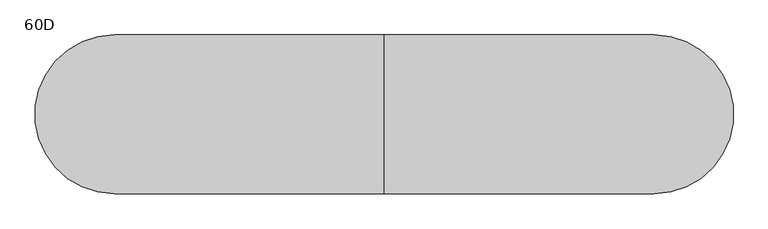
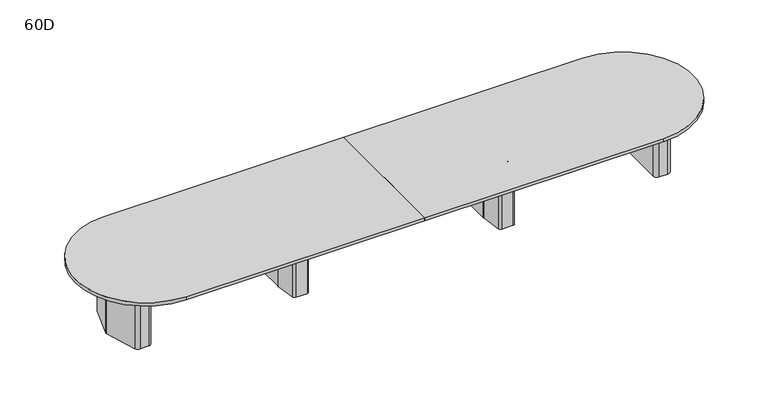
"""IFC4 building model written with IfcOpenShell, lengths in millimetres: furniture geometry, Coalesse_AM_Table_Conference_ETable2_Racetrack_22ft_FourBase : 60D."""

from ifc_helpers import new_model, si_unit, point, frame, frame_2d, origin, origin_with_axes, place, context, project, spatial, polyline, circle_curve, trimmed, segment, composite_curve, outline, extrude, source, transform, mapped, element, save
from ifc_brep_helpers import plane_surface, cylinder_surface, revolved_surface, advanced_brep


def furniture_60d_2d9ece58(model_context):
    return source(origin(), model_context, "Body", "SolidModel", [
        advanced_brep(
        [(1178.6357815, 381.0, 698.5), (1056.5642185, 381.0, 698.5), (1031.4114006, 359.1349332, 698.5), (1000.3721821, 138.2753661, 698.5), (1000.125, 134.740433, 698.5), (1000.125, -134.7404196, 698.5), (1000.3721537, -138.2751502, 698.5), (1031.4095605, -359.1347306, 698.5), (1056.5624068, -381.0, 698.5), (1178.6375932, -381.0, 698.5), (1203.7904395, -359.1347306, 698.5), (1234.8278463, -138.2751502, 698.5), (1235.075, -134.7404196, 698.5), (1235.075, 134.740433, 698.5), (1234.8278179, 138.2753661, 698.5), (1203.7885994, 359.1349332, 698.5), (1143.0, 314.325, 698.5), (1168.4, 288.925, 698.5), (1168.4, -288.925, 698.5), (1143.0, -314.325, 698.5), (1092.2, -314.325, 698.5), (1066.8, -288.925, 698.5), (1066.8, 288.925, 698.5), (1092.2, 314.325, 698.5), (1178.6357815, 381.0, 3.175), (1203.7885994, 359.1349332, 3.175), (1234.8278179, 138.2753661, 3.175), (1235.075, 134.740433, 3.175), (1235.075, -134.7404196, 3.175), (1234.8278463, -138.2751502, 3.175), (1203.7904395, -359.1347306, 3.175), (1178.6375932, -381.0, 3.175), (1056.5624068, -381.0, 3.175), (1031.4095605, -359.1347306, 3.175), (1000.3721537, -138.2751502, 3.175), (1000.125, -134.7404196, 3.175), (1000.125, 134.740433, 3.175), (1000.3721821, 138.2753661, 3.175), (1031.4114006, 359.1349332, 3.175), (1056.5642185, 381.0, 3.175), (1143.0, 327.025, 3.175), (1092.2, 327.025, 3.175), (1054.1, 288.925, 3.175), (1054.1, -288.925, 3.175), (1092.2, -327.025, 3.175), (1143.0, -327.025, 3.175), (1181.1, -288.925, 3.175), (1181.1, 288.925, 3.175), (1143.0, 314.325, 3.175), (1168.4, 288.925, 3.175), (1168.4, -288.925, 3.175), (1143.0, -314.325, 3.175), (1092.2, -314.325, 3.175), (1066.8, -288.925, 3.175), (1066.8, 288.925, 3.175), (1092.2, 314.325, 3.175), (1143.0, 327.025, 0.0), (1181.1, 288.925, 0.0), (1181.1, -288.925, 0.0), (1143.0, -327.025, 0.0), (1092.2, -327.025, 0.0), (1054.1, -288.925, 0.0), (1054.1, 288.925, 0.0), (1092.2, 327.025, 0.0)],
        [
            (0, 1),
            (1, 2, circle_curve(frame((1056.5642185, 355.6, 698.5), z_axis=(0.0, 0.0, 1.0), x_axis=(1.0, 0.0, 0.0)), 25.4)),
            (2, 3),
            (3, 4, circle_curve(frame((1025.525, 134.740433, 698.5), z_axis=(0.0, 0.0, 1.0), x_axis=(1.0, 0.0, 0.0)), 25.4)),
            (4, 5),
            (5, 6, circle_curve(frame((1025.525, -134.7404196, 698.5), z_axis=(0.0, 0.0, 1.0), x_axis=(1.0, 0.0, 0.0)), 25.4)),
            (6, 7),
            (7, 8, circle_curve(frame((1056.5624068, -355.6, 698.5), z_axis=(0.0, 0.0, 1.0), x_axis=(1.0, 0.0, 0.0)), 25.4)),
            (8, 9),
            (9, 10, circle_curve(frame((1178.6375932, -355.6, 698.5), z_axis=(0.0, 0.0, 1.0), x_axis=(1.0, 0.0, 0.0)), 25.4)),
            (10, 11),
            (11, 12, circle_curve(frame((1209.675, -134.7404196, 698.5), z_axis=(0.0, 0.0, 1.0), x_axis=(1.0, 0.0, 0.0)), 25.4)),
            (12, 13),
            (13, 14, circle_curve(frame((1209.675, 134.740433, 698.5), z_axis=(0.0, 0.0, 1.0), x_axis=(1.0, 0.0, 0.0)), 25.4)),
            (14, 15),
            (15, 0, circle_curve(frame((1178.6357815, 355.6, 698.5), z_axis=(0.0, 0.0, 1.0), x_axis=(1.0, 0.0, 0.0)), 25.4)),
            (16, 17, circle_curve(frame((1143.0, 288.925, 698.5), z_axis=(0.0, 0.0, -1.0), x_axis=(1.0, 0.0, 0.0)), 25.4)),
            (17, 18),
            (18, 19, circle_curve(frame((1143.0, -288.925, 698.5), z_axis=(0.0, 0.0, -1.0), x_axis=(1.0, 0.0, 0.0)), 25.4)),
            (19, 20),
            (20, 21, circle_curve(frame((1092.2, -288.925, 698.5), z_axis=(0.0, 0.0, -1.0), x_axis=(1.0, 0.0, 0.0)), 25.4)),
            (21, 22),
            (22, 23, circle_curve(frame((1092.2, 288.925, 698.5), z_axis=(0.0, 0.0, -1.0), x_axis=(1.0, 0.0, 0.0)), 25.4)),
            (23, 16),
            (24, 25, circle_curve(frame((1178.6357815, 355.6, 3.175), z_axis=(0.0, 0.0, -1.0), x_axis=(1.0, 0.0, 0.0)), 25.4)),
            (25, 26),
            (26, 27, circle_curve(frame((1209.675, 134.740433, 3.175), z_axis=(0.0, 0.0, -1.0), x_axis=(1.0, 0.0, 0.0)), 25.4)),
            (27, 28),
            (28, 29, circle_curve(frame((1209.675, -134.7404196, 3.175), z_axis=(0.0, 0.0, -1.0), x_axis=(1.0, 0.0, 0.0)), 25.4)),
            (29, 30),
            (30, 31, circle_curve(frame((1178.6375932, -355.6, 3.175), z_axis=(0.0, 0.0, -1.0), x_axis=(1.0, 0.0, 0.0)), 25.4)),
            (31, 32),
            (32, 33, circle_curve(frame((1056.5624068, -355.6, 3.175), z_axis=(0.0, 0.0, -1.0), x_axis=(1.0, 0.0, 0.0)), 25.4)),
            (33, 34),
            (34, 35, circle_curve(frame((1025.525, -134.7404196, 3.175), z_axis=(0.0, 0.0, -1.0), x_axis=(1.0, 0.0, 0.0)), 25.4)),
            (35, 36),
            (36, 37, circle_curve(frame((1025.525, 134.740433, 3.175), z_axis=(0.0, 0.0, -1.0), x_axis=(1.0, 0.0, 0.0)), 25.4)),
            (37, 38),
            (38, 39, circle_curve(frame((1056.5642185, 355.6, 3.175), z_axis=(0.0, 0.0, -1.0), x_axis=(1.0, 0.0, 0.0)), 25.4)),
            (39, 24),
            (40, 41),
            (41, 42, circle_curve(frame((1092.2, 288.925, 3.175), z_axis=(0.0, 0.0, 1.0), x_axis=(1.0, 0.0, 0.0)), 38.1)),
            (42, 43),
            (43, 44, circle_curve(frame((1092.2, -288.925, 3.175), z_axis=(0.0, 0.0, 1.0), x_axis=(1.0, 0.0, 0.0)), 38.1)),
            (44, 45),
            (45, 46, circle_curve(frame((1143.0, -288.925, 3.175), z_axis=(0.0, 0.0, 1.0), x_axis=(1.0, 0.0, 0.0)), 38.1)),
            (46, 47),
            (47, 40, circle_curve(frame((1143.0, 288.925, 3.175), z_axis=(0.0, 0.0, 1.0), x_axis=(1.0, 0.0, 0.0)), 38.1)),
            (0, 24),
            (39, 1),
            (38, 2),
            (37, 3),
            (36, 4),
            (35, 5),
            (34, 6),
            (33, 7),
            (32, 8),
            (31, 9),
            (30, 10),
            (29, 11),
            (28, 12),
            (27, 13),
            (26, 14),
            (25, 15),
            (16, 48),
            (48, 49, circle_curve(frame((1143.0, 288.925, 3.175), z_axis=(0.0, 0.0, -1.0), x_axis=(1.0, 0.0, 0.0)), 25.4)),
            (49, 17),
            (49, 50),
            (50, 18),
            (50, 51, circle_curve(frame((1143.0, -288.925, 3.175), z_axis=(0.0, 0.0, -1.0), x_axis=(1.0, 0.0, 0.0)), 25.4)),
            (51, 19),
            (51, 52),
            (52, 20),
            (52, 53, circle_curve(frame((1092.2, -288.925, 3.175), z_axis=(0.0, 0.0, -1.0), x_axis=(1.0, 0.0, 0.0)), 25.4)),
            (53, 21),
            (53, 54),
            (54, 22),
            (54, 55, circle_curve(frame((1092.2, 288.925, 3.175), z_axis=(0.0, 0.0, -1.0), x_axis=(1.0, 0.0, 0.0)), 25.4)),
            (55, 23),
            (55, 48),
            (56, 57, circle_curve(frame((1143.0, 288.925, 0.0), z_axis=(0.0, 0.0, -1.0), x_axis=(1.0, 0.0, 0.0)), 38.1)),
            (57, 58),
            (58, 59, circle_curve(frame((1143.0, -288.925, 0.0), z_axis=(0.0, 0.0, -1.0), x_axis=(1.0, 0.0, 0.0)), 38.1)),
            (59, 60),
            (60, 61, circle_curve(frame((1092.2, -288.925, 0.0), z_axis=(0.0, 0.0, -1.0), x_axis=(1.0, 0.0, 0.0)), 38.1)),
            (61, 62),
            (62, 63, circle_curve(frame((1092.2, 288.925, 0.0), z_axis=(0.0, 0.0, -1.0), x_axis=(1.0, 0.0, 0.0)), 38.1)),
            (63, 56),
            (63, 41),
            (40, 56),
            (62, 42),
            (61, 43),
            (60, 44),
            (59, 45),
            (58, 46),
            (57, 47),
        ],
        [
            plane_surface(frame((-406.4, 381.0, 698.5), z_axis=(0.0, 0.0, 1.0), x_axis=(-1.0, 0.0, 0.0))),
            plane_surface(frame((-406.4, 381.0, 3.175), z_axis=(0.0, 0.0, -1.0), x_axis=(1.0, 0.0, 0.0))),
            plane_surface(frame((1178.6357815, 381.0, 698.5), z_axis=(0.0, 1.0, 0.0), x_axis=(0.0, 0.0, -1.0))),
            cylinder_surface(frame((1056.5642185, 355.6, 3.175), z_axis=(0.0, 0.0, 1.0), x_axis=(1.0, 0.0, 0.0)), 25.4),
            plane_surface(frame((1031.4114006, 359.1349332, 698.5), z_axis=(-0.9902684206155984, 0.13917059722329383, 0.0), x_axis=(0.0, 0.0, -1.0))),
            cylinder_surface(frame((1025.525, 134.740433, 3.175), z_axis=(0.0, 0.0, 1.0), x_axis=(1.0, 0.0, 0.0)), 25.4),
            plane_surface(frame((1000.125, 134.740433, 698.5), z_axis=(-1.0, 0.0, 0.0), x_axis=(0.0, 0.0, -1.0))),
            cylinder_surface(frame((1025.525, -134.7404196, 3.175), z_axis=(0.0, 0.0, 1.0), x_axis=(1.0, 0.0, 0.0)), 25.4),
            plane_surface(frame((1000.3721537, -138.2751502, 698.5), z_axis=(-0.9902695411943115, -0.1391626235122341, 0.0), x_axis=(0.0, 0.0, -1.0))),
            cylinder_surface(frame((1056.5624068, -355.6, 3.175), z_axis=(0.0, 0.0, 1.0), x_axis=(1.0, 0.0, 0.0)), 25.4),
            plane_surface(frame((1056.5624068, -381.0, 698.5), z_axis=(0.0, -1.0, 0.0), x_axis=(0.0, 0.0, -1.0))),
            cylinder_surface(frame((1178.6375932, -355.6, 3.175), z_axis=(0.0, 0.0, 1.0), x_axis=(1.0, 0.0, 0.0)), 25.4),
            plane_surface(frame((1203.7904395, -359.1347306, 698.5), z_axis=(0.9902695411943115, -0.1391626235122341, 0.0), x_axis=(0.0, 0.0, -1.0))),
            cylinder_surface(frame((1209.675, -134.7404196, 3.175), z_axis=(0.0, 0.0, 1.0), x_axis=(1.0, 0.0, 0.0)), 25.4),
            plane_surface(frame((1235.075, -134.7404196, 698.5), z_axis=(1.0, 0.0, 0.0), x_axis=(0.0, 0.0, -1.0))),
            cylinder_surface(frame((1209.675, 134.740433, 3.175), z_axis=(0.0, 0.0, 1.0), x_axis=(1.0, 0.0, 0.0)), 25.4),
            plane_surface(frame((1234.8278179, 138.2753661, 698.5), z_axis=(0.9902684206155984, 0.13917059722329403, 0.0), x_axis=(0.0, 0.0, -1.0))),
            cylinder_surface(frame((1178.6357815, 355.6, 3.175), z_axis=(0.0, 0.0, 1.0), x_axis=(1.0, 0.0, 0.0)), 25.4),
            revolved_surface(polyline([(1168.4, 288.925, 3.175), (1168.4, 288.925, 698.5)]), (1143.0, 288.925, 0.0), (0.0, 0.0, -1.0)),
            plane_surface(frame((1168.4, 288.925, 698.5), z_axis=(-1.0, 0.0, 0.0), x_axis=(0.0, 0.0, -1.0))),
            revolved_surface(polyline([(1168.4, -288.925, 3.175), (1168.4, -288.925, 698.5)]), (1143.0, -288.925, 0.0), (0.0, 0.0, -1.0)),
            plane_surface(frame((1143.0, -314.325, 698.5), z_axis=(0.0, 1.0, 0.0), x_axis=(0.0, 0.0, -1.0))),
            revolved_surface(polyline([(1117.6000000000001, -288.925, 3.175), (1117.6000000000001, -288.925, 698.5)]), (1092.2, -288.925, 0.0), (0.0, 0.0, -1.0)),
            plane_surface(frame((1066.8, -288.925, 698.5), z_axis=(1.0, 0.0, 0.0), x_axis=(0.0, 0.0, -1.0))),
            revolved_surface(polyline([(1117.6000000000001, 288.925, 3.175), (1117.6000000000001, 288.925, 698.5)]), (1092.2, 288.925, 0.0), (0.0, 0.0, -1.0)),
            plane_surface(frame((1092.2, 314.325, 698.5), z_axis=(0.0, -1.0, 0.0), x_axis=(0.0, 0.0, -1.0))),
            plane_surface(frame((1066.8, 327.025, 3.175), z_axis=(0.0, 0.0, 1.0), x_axis=(-1.0, 0.0, 0.0))),
            plane_surface(frame((1066.8, 327.025, 0.0), z_axis=(0.0, 0.0, -1.0), x_axis=(1.0, 0.0, 0.0))),
            plane_surface(frame((1143.0, 327.025, 3.175), z_axis=(0.0, 1.0, 0.0), x_axis=(0.0, 0.0, -1.0))),
            cylinder_surface(frame((1092.2, 288.925, 0.0), z_axis=(0.0, 0.0, 1.0), x_axis=(1.0, 0.0, 0.0)), 38.1),
            plane_surface(frame((1054.1, 288.925, 3.175), z_axis=(-1.0, 0.0, 0.0), x_axis=(0.0, 0.0, -1.0))),
            cylinder_surface(frame((1092.2, -288.925, 0.0), z_axis=(0.0, 0.0, 1.0), x_axis=(1.0, 0.0, 0.0)), 38.1),
            plane_surface(frame((1092.2, -327.025, 3.175), z_axis=(0.0, -1.0, 0.0), x_axis=(0.0, 0.0, -1.0))),
            cylinder_surface(frame((1143.0, -288.925, 0.0), z_axis=(0.0, 0.0, 1.0), x_axis=(1.0, 0.0, 0.0)), 38.1),
            plane_surface(frame((1181.1, -288.925, 3.175), z_axis=(1.0, 0.0, 0.0), x_axis=(0.0, 0.0, -1.0))),
            cylinder_surface(frame((1143.0, 288.925, 0.0), z_axis=(0.0, 0.0, 1.0), x_axis=(1.0, 0.0, 0.0)), 38.1),
        ],
        [
            (0, [[1, 2, 3, 4, 5, 6, 7, 8, 9, 10, 11, 12, 13, 14, 15, 16], [17, 18, 19, 20, 21, 22, 23, 24]]),
            (1, [[25, 26, 27, 28, 29, 30, 31, 32, 33, 34, 35, 36, 37, 38, 39, 40], [41, 42, 43, 44, 45, 46, 47, 48]]),
            (2, [[-1, 49, -40, 50]]),
            (3, [[-2, -50, -39, 51]]),
            (4, [[-3, -51, -38, 52]]),
            (5, [[-4, -52, -37, 53]]),
            (6, [[-5, -53, -36, 54]]),
            (7, [[-6, -54, -35, 55]]),
            (8, [[-7, -55, -34, 56]]),
            (9, [[-8, -56, -33, 57]]),
            (10, [[-9, -57, -32, 58]]),
            (11, [[-10, -58, -31, 59]]),
            (12, [[-11, -59, -30, 60]]),
            (13, [[-12, -60, -29, 61]]),
            (14, [[-13, -61, -28, 62]]),
            (15, [[-14, -62, -27, 63]]),
            (16, [[-15, -63, -26, 64]]),
            (17, [[-16, -64, -25, -49]]),
            (18, [[-17, 65, 66, 67]]),
            (19, [[-18, -67, 68, 69]]),
            (20, [[-19, -69, 70, 71]]),
            (21, [[-20, -71, 72, 73]]),
            (22, [[-21, -73, 74, 75]]),
            (23, [[-22, -75, 76, 77]]),
            (24, [[-23, -77, 78, 79]]),
            (25, [[-24, -79, 80, -65]]),
            (26, [[-66, -80, -78, -76, -74, -72, -70, -68]]),
            (27, [[81, 82, 83, 84, 85, 86, 87, 88]]),
            (28, [[-88, 89, -41, 90]]),
            (29, [[-87, 91, -42, -89]]),
            (30, [[-86, 92, -43, -91]]),
            (31, [[-85, 93, -44, -92]]),
            (32, [[-84, 94, -45, -93]]),
            (33, [[-83, 95, -46, -94]]),
            (34, [[-82, 96, -47, -95]]),
            (35, [[-81, -90, -48, -96]]),
        ],
    ),
        advanced_brep(
        [(-1056.5642185, 381.0, 698.5), (-1178.6357815, 381.0, 698.5), (-1203.7885994, 359.1349332, 698.5), (-1234.8278179, 138.2753661, 698.5), (-1235.075, 134.740433, 698.5), (-1235.075, -134.7404196, 698.5), (-1234.8278463, -138.2751502, 698.5), (-1203.7904395, -359.1347306, 698.5), (-1178.6375932, -381.0, 698.5), (-1056.5624068, -381.0, 698.5), (-1031.4095605, -359.1347306, 698.5), (-1000.3721537, -138.2751502, 698.5), (-1000.125, -134.7404196, 698.5), (-1000.125, 134.740433, 698.5), (-1000.3721821, 138.2753661, 698.5), (-1031.4114006, 359.1349332, 698.5), (-1092.2, 314.325, 698.5), (-1066.8, 288.925, 698.5), (-1066.8, -288.925, 698.5), (-1092.2, -314.325, 698.5), (-1143.0, -314.325, 698.5), (-1168.4, -288.925, 698.5), (-1168.4, 288.925, 698.5), (-1143.0, 314.325, 698.5), (-1056.5642185, 381.0, 3.175), (-1031.4114006, 359.1349332, 3.175), (-1000.3721821, 138.2753661, 3.175), (-1000.125, 134.740433, 3.175), (-1000.125, -134.7404196, 3.175), (-1000.3721537, -138.2751502, 3.175), (-1031.4095605, -359.1347306, 3.175), (-1056.5624068, -381.0, 3.175), (-1178.6375932, -381.0, 3.175), (-1203.7904395, -359.1347306, 3.175), (-1234.8278463, -138.2751502, 3.175), (-1235.075, -134.7404196, 3.175), (-1235.075, 134.740433, 3.175), (-1234.8278179, 138.2753661, 3.175), (-1203.7885994, 359.1349332, 3.175), (-1178.6357815, 381.0, 3.175), (-1092.2, 327.025, 3.175), (-1143.0, 327.025, 3.175), (-1181.1, 288.925, 3.175), (-1181.1, -288.925, 3.175), (-1143.0, -327.025, 3.175), (-1092.2, -327.025, 3.175), (-1054.1, -288.925, 3.175), (-1054.1, 288.925, 3.175), (-1092.2, 314.325, 3.175), (-1066.8, 288.925, 3.175), (-1066.8, -288.925, 3.175), (-1092.2, -314.325, 3.175), (-1143.0, -314.325, 3.175), (-1168.4, -288.925, 3.175), (-1168.4, 288.925, 3.175), (-1143.0, 314.325, 3.175), (-1092.2, 327.025, 0.0), (-1054.1, 288.925, 0.0), (-1054.1, -288.925, 0.0), (-1092.2, -327.025, 0.0), (-1143.0, -327.025, 0.0), (-1181.1, -288.925, 0.0), (-1181.1, 288.925, 0.0), (-1143.0, 327.025, 0.0)],
        [
            (0, 1),
            (1, 2, circle_curve(frame((-1178.6357815, 355.6, 698.5), z_axis=(0.0, 0.0, 1.0), x_axis=(1.0, 0.0, 0.0)), 25.4)),
            (2, 3),
            (3, 4, circle_curve(frame((-1209.675, 134.740433, 698.5), z_axis=(0.0, 0.0, 1.0), x_axis=(1.0, 0.0, 0.0)), 25.4)),
            (4, 5),
            (5, 6, circle_curve(frame((-1209.675, -134.7404196, 698.5), z_axis=(0.0, 0.0, 1.0), x_axis=(1.0, 0.0, 0.0)), 25.4)),
            (6, 7),
            (7, 8, circle_curve(frame((-1178.6375932, -355.6, 698.5), z_axis=(0.0, 0.0, 1.0), x_axis=(1.0, 0.0, 0.0)), 25.4)),
            (8, 9),
            (9, 10, circle_curve(frame((-1056.5624068, -355.6, 698.5), z_axis=(0.0, 0.0, 1.0), x_axis=(1.0, 0.0, 0.0)), 25.4)),
            (10, 11),
            (11, 12, circle_curve(frame((-1025.525, -134.7404196, 698.5), z_axis=(0.0, 0.0, 1.0), x_axis=(1.0, 0.0, 0.0)), 25.4)),
            (12, 13),
            (13, 14, circle_curve(frame((-1025.525, 134.740433, 698.5), z_axis=(0.0, 0.0, 1.0), x_axis=(1.0, 0.0, 0.0)), 25.4)),
            (14, 15),
            (15, 0, circle_curve(frame((-1056.5642185, 355.6, 698.5), z_axis=(0.0, 0.0, 1.0), x_axis=(1.0, 0.0, 0.0)), 25.4)),
            (16, 17, circle_curve(frame((-1092.2, 288.925, 698.5), z_axis=(0.0, 0.0, -1.0), x_axis=(1.0, 0.0, 0.0)), 25.4)),
            (17, 18),
            (18, 19, circle_curve(frame((-1092.2, -288.925, 698.5), z_axis=(0.0, 0.0, -1.0), x_axis=(1.0, 0.0, 0.0)), 25.4)),
            (19, 20),
            (20, 21, circle_curve(frame((-1143.0, -288.925, 698.5), z_axis=(0.0, 0.0, -1.0), x_axis=(1.0, 0.0, 0.0)), 25.4)),
            (21, 22),
            (22, 23, circle_curve(frame((-1143.0, 288.925, 698.5), z_axis=(0.0, 0.0, -1.0), x_axis=(1.0, 0.0, 0.0)), 25.4)),
            (23, 16),
            (24, 25, circle_curve(frame((-1056.5642185, 355.6, 3.175), z_axis=(0.0, 0.0, -1.0), x_axis=(1.0, 0.0, 0.0)), 25.4)),
            (25, 26),
            (26, 27, circle_curve(frame((-1025.525, 134.740433, 3.175), z_axis=(0.0, 0.0, -1.0), x_axis=(1.0, 0.0, 0.0)), 25.4)),
            (27, 28),
            (28, 29, circle_curve(frame((-1025.525, -134.7404196, 3.175), z_axis=(0.0, 0.0, -1.0), x_axis=(1.0, 0.0, 0.0)), 25.4)),
            (29, 30),
            (30, 31, circle_curve(frame((-1056.5624068, -355.6, 3.175), z_axis=(0.0, 0.0, -1.0), x_axis=(1.0, 0.0, 0.0)), 25.4)),
            (31, 32),
            (32, 33, circle_curve(frame((-1178.6375932, -355.6, 3.175), z_axis=(0.0, 0.0, -1.0), x_axis=(1.0, 0.0, 0.0)), 25.4)),
            (33, 34),
            (34, 35, circle_curve(frame((-1209.675, -134.7404196, 3.175), z_axis=(0.0, 0.0, -1.0), x_axis=(1.0, 0.0, 0.0)), 25.4)),
            (35, 36),
            (36, 37, circle_curve(frame((-1209.675, 134.740433, 3.175), z_axis=(0.0, 0.0, -1.0), x_axis=(1.0, 0.0, 0.0)), 25.4)),
            (37, 38),
            (38, 39, circle_curve(frame((-1178.6357815, 355.6, 3.175), z_axis=(0.0, 0.0, -1.0), x_axis=(1.0, 0.0, 0.0)), 25.4)),
            (39, 24),
            (40, 41),
            (41, 42, circle_curve(frame((-1143.0, 288.925, 3.175), z_axis=(0.0, 0.0, 1.0), x_axis=(1.0, 0.0, 0.0)), 38.1)),
            (42, 43),
            (43, 44, circle_curve(frame((-1143.0, -288.925, 3.175), z_axis=(0.0, 0.0, 1.0), x_axis=(1.0, 0.0, 0.0)), 38.1)),
            (44, 45),
            (45, 46, circle_curve(frame((-1092.2, -288.925, 3.175), z_axis=(0.0, 0.0, 1.0), x_axis=(1.0, 0.0, 0.0)), 38.1)),
            (46, 47),
            (47, 40, circle_curve(frame((-1092.2, 288.925, 3.175), z_axis=(0.0, 0.0, 1.0), x_axis=(1.0, 0.0, 0.0)), 38.1)),
            (0, 24),
            (39, 1),
            (38, 2),
            (37, 3),
            (36, 4),
            (35, 5),
            (34, 6),
            (33, 7),
            (32, 8),
            (31, 9),
            (30, 10),
            (29, 11),
            (28, 12),
            (27, 13),
            (26, 14),
            (25, 15),
            (16, 48),
            (48, 49, circle_curve(frame((-1092.2, 288.925, 3.175), z_axis=(0.0, 0.0, -1.0), x_axis=(1.0, 0.0, 0.0)), 25.4)),
            (49, 17),
            (49, 50),
            (50, 18),
            (50, 51, circle_curve(frame((-1092.2, -288.925, 3.175), z_axis=(0.0, 0.0, -1.0), x_axis=(1.0, 0.0, 0.0)), 25.4)),
            (51, 19),
            (51, 52),
            (52, 20),
            (52, 53, circle_curve(frame((-1143.0, -288.925, 3.175), z_axis=(0.0, 0.0, -1.0), x_axis=(1.0, 0.0, 0.0)), 25.4)),
            (53, 21),
            (53, 54),
            (54, 22),
            (54, 55, circle_curve(frame((-1143.0, 288.925, 3.175), z_axis=(0.0, 0.0, -1.0), x_axis=(1.0, 0.0, 0.0)), 25.4)),
            (55, 23),
            (55, 48),
            (56, 57, circle_curve(frame((-1092.2, 288.925, 0.0), z_axis=(0.0, 0.0, -1.0), x_axis=(1.0, 0.0, 0.0)), 38.1)),
            (57, 58),
            (58, 59, circle_curve(frame((-1092.2, -288.925, 0.0), z_axis=(0.0, 0.0, -1.0), x_axis=(1.0, 0.0, 0.0)), 38.1)),
            (59, 60),
            (60, 61, circle_curve(frame((-1143.0, -288.925, 0.0), z_axis=(0.0, 0.0, -1.0), x_axis=(1.0, 0.0, 0.0)), 38.1)),
            (61, 62),
            (62, 63, circle_curve(frame((-1143.0, 288.925, 0.0), z_axis=(0.0, 0.0, -1.0), x_axis=(1.0, 0.0, 0.0)), 38.1)),
            (63, 56),
            (63, 41),
            (40, 56),
            (62, 42),
            (61, 43),
            (60, 44),
            (59, 45),
            (58, 46),
            (57, 47),
        ],
        [
            plane_surface(frame((-2641.6, 381.0, 698.5), z_axis=(0.0, 0.0, 1.0), x_axis=(-1.0, 0.0, 0.0))),
            plane_surface(frame((-2641.6, 381.0, 3.175), z_axis=(0.0, 0.0, -1.0), x_axis=(1.0, 0.0, 0.0))),
            plane_surface(frame((-1056.5642185, 381.0, 698.5), z_axis=(0.0, 1.0, 0.0), x_axis=(0.0, 0.0, -1.0))),
            cylinder_surface(frame((-1178.6357815, 355.6, 3.175), z_axis=(0.0, 0.0, 1.0), x_axis=(1.0, 0.0, 0.0)), 25.4),
            plane_surface(frame((-1203.7885994, 359.1349332, 698.5), z_axis=(-0.9902684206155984, 0.13917059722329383, 0.0), x_axis=(0.0, 0.0, -1.0))),
            cylinder_surface(frame((-1209.675, 134.740433, 3.175), z_axis=(0.0, 0.0, 1.0), x_axis=(1.0, 0.0, 0.0)), 25.4),
            plane_surface(frame((-1235.075, 134.740433, 698.5), z_axis=(-1.0, 0.0, 0.0), x_axis=(0.0, 0.0, -1.0))),
            cylinder_surface(frame((-1209.675, -134.7404196, 3.175), z_axis=(0.0, 0.0, 1.0), x_axis=(1.0, 0.0, 0.0)), 25.4),
            plane_surface(frame((-1234.8278463, -138.2751502, 698.5), z_axis=(-0.9902695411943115, -0.1391626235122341, 0.0), x_axis=(0.0, 0.0, -1.0))),
            cylinder_surface(frame((-1178.6375932, -355.6, 3.175), z_axis=(0.0, 0.0, 1.0), x_axis=(1.0, 0.0, 0.0)), 25.4),
            plane_surface(frame((-1178.6375932, -381.0, 698.5), z_axis=(0.0, -1.0, 0.0), x_axis=(0.0, 0.0, -1.0))),
            cylinder_surface(frame((-1056.5624068, -355.6, 3.175), z_axis=(0.0, 0.0, 1.0), x_axis=(1.0, 0.0, 0.0)), 25.4),
            plane_surface(frame((-1031.4095605, -359.1347306, 698.5), z_axis=(0.9902695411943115, -0.1391626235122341, 0.0), x_axis=(0.0, 0.0, -1.0))),
            cylinder_surface(frame((-1025.525, -134.7404196, 3.175), z_axis=(0.0, 0.0, 1.0), x_axis=(1.0, 0.0, 0.0)), 25.4),
            plane_surface(frame((-1000.125, -134.7404196, 698.5), z_axis=(1.0, 0.0, 0.0), x_axis=(0.0, 0.0, -1.0))),
            cylinder_surface(frame((-1025.525, 134.740433, 3.175), z_axis=(0.0, 0.0, 1.0), x_axis=(1.0, 0.0, 0.0)), 25.4),
            plane_surface(frame((-1000.3721821, 138.2753661, 698.5), z_axis=(0.9902684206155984, 0.13917059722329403, 0.0), x_axis=(0.0, 0.0, -1.0))),
            cylinder_surface(frame((-1056.5642185, 355.6, 3.175), z_axis=(0.0, 0.0, 1.0), x_axis=(1.0, 0.0, 0.0)), 25.4),
            revolved_surface(polyline([(-1066.8, 288.925, 3.175), (-1066.8, 288.925, 698.5)]), (-1092.2, 288.925, 0.0), (0.0, 0.0, -1.0)),
            plane_surface(frame((-1066.8, 288.925, 698.5), z_axis=(-1.0, 0.0, 0.0), x_axis=(0.0, 0.0, -1.0))),
            revolved_surface(polyline([(-1066.8, -288.925, 3.175), (-1066.8, -288.925, 698.5)]), (-1092.2, -288.925, 0.0), (0.0, 0.0, -1.0)),
            plane_surface(frame((-1092.2, -314.325, 698.5), z_axis=(0.0, 1.0, 0.0), x_axis=(0.0, 0.0, -1.0))),
            revolved_surface(polyline([(-1117.6, -288.925, 3.175), (-1117.6, -288.925, 698.5)]), (-1143.0, -288.925, 0.0), (0.0, 0.0, -1.0)),
            plane_surface(frame((-1168.4, -288.925, 698.5), z_axis=(1.0, 0.0, 0.0), x_axis=(0.0, 0.0, -1.0))),
            revolved_surface(polyline([(-1117.6, 288.925, 3.175), (-1117.6, 288.925, 698.5)]), (-1143.0, 288.925, 0.0), (0.0, 0.0, -1.0)),
            plane_surface(frame((-1143.0, 314.325, 698.5), z_axis=(0.0, -1.0, 0.0), x_axis=(0.0, 0.0, -1.0))),
            plane_surface(frame((-1168.4, 327.025, 3.175), z_axis=(0.0, 0.0, 1.0), x_axis=(-1.0, 0.0, 0.0))),
            plane_surface(frame((-1168.4, 327.025, 0.0), z_axis=(0.0, 0.0, -1.0), x_axis=(1.0, 0.0, 0.0))),
            plane_surface(frame((-1092.2, 327.025, 3.175), z_axis=(0.0, 1.0, 0.0), x_axis=(0.0, 0.0, -1.0))),
            cylinder_surface(frame((-1143.0, 288.925, 0.0), z_axis=(0.0, 0.0, 1.0), x_axis=(1.0, 0.0, 0.0)), 38.1),
            plane_surface(frame((-1181.1, 288.925, 3.175), z_axis=(-1.0, 0.0, 0.0), x_axis=(0.0, 0.0, -1.0))),
            cylinder_surface(frame((-1143.0, -288.925, 0.0), z_axis=(0.0, 0.0, 1.0), x_axis=(1.0, 0.0, 0.0)), 38.1),
            plane_surface(frame((-1143.0, -327.025, 3.175), z_axis=(0.0, -1.0, 0.0), x_axis=(0.0, 0.0, -1.0))),
            cylinder_surface(frame((-1092.2, -288.925, 0.0), z_axis=(0.0, 0.0, 1.0), x_axis=(1.0, 0.0, 0.0)), 38.1),
            plane_surface(frame((-1054.1, -288.925, 3.175), z_axis=(1.0, 0.0, 0.0), x_axis=(0.0, 0.0, -1.0))),
            cylinder_surface(frame((-1092.2, 288.925, 0.0), z_axis=(0.0, 0.0, 1.0), x_axis=(1.0, 0.0, 0.0)), 38.1),
        ],
        [
            (0, [[1, 2, 3, 4, 5, 6, 7, 8, 9, 10, 11, 12, 13, 14, 15, 16], [17, 18, 19, 20, 21, 22, 23, 24]]),
            (1, [[25, 26, 27, 28, 29, 30, 31, 32, 33, 34, 35, 36, 37, 38, 39, 40], [41, 42, 43, 44, 45, 46, 47, 48]]),
            (2, [[-1, 49, -40, 50]]),
            (3, [[-2, -50, -39, 51]]),
            (4, [[-3, -51, -38, 52]]),
            (5, [[-4, -52, -37, 53]]),
            (6, [[-5, -53, -36, 54]]),
            (7, [[-6, -54, -35, 55]]),
            (8, [[-7, -55, -34, 56]]),
            (9, [[-8, -56, -33, 57]]),
            (10, [[-9, -57, -32, 58]]),
            (11, [[-10, -58, -31, 59]]),
            (12, [[-11, -59, -30, 60]]),
            (13, [[-12, -60, -29, 61]]),
            (14, [[-13, -61, -28, 62]]),
            (15, [[-14, -62, -27, 63]]),
            (16, [[-15, -63, -26, 64]]),
            (17, [[-16, -64, -25, -49]]),
            (18, [[-17, 65, 66, 67]]),
            (19, [[-18, -67, 68, 69]]),
            (20, [[-19, -69, 70, 71]]),
            (21, [[-20, -71, 72, 73]]),
            (22, [[-21, -73, 74, 75]]),
            (23, [[-22, -75, 76, 77]]),
            (24, [[-23, -77, 78, 79]]),
            (25, [[-24, -79, 80, -65]]),
            (26, [[-66, -80, -78, -76, -74, -72, -70, -68]]),
            (27, [[81, 82, 83, 84, 85, 86, 87, 88]]),
            (28, [[-88, 89, -41, 90]]),
            (29, [[-87, 91, -42, -89]]),
            (30, [[-86, 92, -43, -91]]),
            (31, [[-85, 93, -44, -92]]),
            (32, [[-84, 94, -45, -93]]),
            (33, [[-83, 95, -46, -94]]),
            (34, [[-82, 96, -47, -95]]),
            (35, [[-81, -90, -48, -96]]),
        ],
    ),
        extrude(outline(composite_curve([segment(polyline([(2951.1625, 101.7236478), (2951.1625, -97.2761514)]), True, "CONTINUOUS"), segment(trimmed(circle_curve(frame_2d((2913.0625, -97.2761514)), 38.1), [point((2951.1625, -97.2761514))], [point((2949.3991129, -108.7330515))], False, "CARTESIAN"), True, "CONTINUOUS"), segment(polyline([(2949.3991129, -108.7330515), (2890.9745591, -294.0319001)]), True, "CONTINUOUS"), segment(trimmed(circle_curve(frame_2d((2854.6379462, -282.575)), 38.1), [point((2890.9745591, -294.0319001))], [point((2854.6379462, -320.675))], False, "CARTESIAN"), True, "CONTINUOUS"), segment(polyline([(2854.6379462, -320.675), (2787.65, -320.675)]), True, "CONTINUOUS"), segment(trimmed(circle_curve(frame_2d((2787.65, -282.575)), 38.1), [point((2787.65, -320.675))], [point((2749.55, -282.575))], False, "CARTESIAN"), True, "CONTINUOUS"), segment(polyline([(2749.55, -282.575), (2749.55, 282.575)]), True, "CONTINUOUS"), segment(trimmed(circle_curve(frame_2d((2787.65, 282.575)), 38.1), [point((2749.55, 282.575))], [point((2787.65, 320.675))], False, "CARTESIAN"), True, "CONTINUOUS"), segment(polyline([(2787.65, 320.675), (2858.3873998, 320.675)]), True, "CONTINUOUS"), segment(trimmed(circle_curve(frame_2d((2858.3873998, 282.575)), 38.1), [point((2858.3873998, 320.675))], [point((2894.8572049, 293.6005756))], False, "CARTESIAN"), True, "CONTINUOUS"), segment(polyline([(2894.8572049, 293.6005756), (2949.5323051, 112.7492234)]), True, "CONTINUOUS"), segment(trimmed(circle_curve(frame_2d((2913.0625, 101.7236478)), 38.1), [point((2949.5323051, 112.7492234))], [point((2951.1625, 101.7236478))], False, "CARTESIAN"), True, "CONTINUOUS")], self_intersect=False)), origin_with_axes(), (0.0, 0.0, 1.0), 3.175),
        extrude(outline(composite_curve([segment(polyline([(2771.775, 381.0), (2859.9221663, 381.0)]), True, "CONTINUOUS"), segment(trimmed(circle_curve(frame_2d((2859.9221663, 339.725)), 41.275), [point((2859.9221663, 381.0))], [point((2899.2868303, 352.1366418))], False, "CARTESIAN"), True, "CONTINUOUS"), segment(polyline([(2899.2868303, 352.1366418), (3006.4018053, 12.4116418)]), True, "CONTINUOUS"), segment(trimmed(circle_curve(frame_2d((2967.0371413, 0.0)), 41.275), [point((3006.4018053, 12.4116418))], [point((3006.4018053, -12.4116418))], False, "CARTESIAN"), True, "CONTINUOUS"), segment(polyline([(3006.4018053, -12.4116418), (2899.2868303, -352.1366418)]), True, "CONTINUOUS"), segment(trimmed(circle_curve(frame_2d((2859.9221663, -339.725)), 41.275), [point((2899.2868303, -352.1366418))], [point((2859.9221663, -381.0))], False, "CARTESIAN"), True, "CONTINUOUS"), segment(polyline([(2859.9221663, -381.0), (2765.425, -381.0)]), True, "CONTINUOUS"), segment(trimmed(circle_curve(frame_2d((2765.425, -339.725)), 41.275), [point((2765.425, -381.0))], [point((2724.15, -339.725))], False, "CARTESIAN"), True, "CONTINUOUS"), segment(polyline([(2724.15, -339.725), (2724.15, 333.375)]), True, "CONTINUOUS"), segment(trimmed(circle_curve(frame_2d((2771.775, 333.375)), 47.625), [point((2724.15, 333.375))], [point((2771.775, 381.0))], False, "CARTESIAN"), True, "CONTINUOUS")], self_intersect=False), holes=[composite_curve([segment(trimmed(circle_curve(frame_2d((2787.65, -282.575)), 25.4), [point((2762.25, -282.575))], [point((2787.65, -307.975))], True, "CARTESIAN"), True, "CONTINUOUS"), segment(polyline([(2787.65, -307.975), (2854.6379462, -307.975)]), True, "CONTINUOUS"), segment(trimmed(circle_curve(frame_2d((2854.6379462, -282.575)), 25.4), [point((2854.6379462, -307.975))], [point((2878.8623548, -290.2129334))], True, "CARTESIAN"), True, "CONTINUOUS"), segment(polyline([(2878.8623548, -290.2129334), (2937.2869086, -104.9140848)]), True, "CONTINUOUS"), segment(trimmed(circle_curve(frame_2d((2913.0625, -97.2761514)), 25.4), [point((2937.2869086, -104.9140848))], [point((2938.4625, -97.2761514))], True, "CARTESIAN"), True, "CONTINUOUS"), segment(polyline([(2938.4625, -97.2761514), (2938.4625, 101.7236478)]), True, "CONTINUOUS"), segment(trimmed(circle_curve(frame_2d((2913.0625, 101.7236478)), 25.4), [point((2938.4625, 101.7236478))], [point((2937.3757034, 109.0740316))], True, "CARTESIAN"), True, "CONTINUOUS"), segment(polyline([(2937.3757034, 109.0740316), (2882.7006032, 289.9253837)]), True, "CONTINUOUS"), segment(trimmed(circle_curve(frame_2d((2858.3873998, 282.575)), 25.4), [point((2882.7006032, 289.9253837))], [point((2858.3873998, 307.975))], True, "CARTESIAN"), True, "CONTINUOUS"), segment(polyline([(2858.3873998, 307.975), (2787.65, 307.975)]), True, "CONTINUOUS"), segment(trimmed(circle_curve(frame_2d((2787.65, 282.575)), 25.4), [point((2787.65, 307.975))], [point((2762.25, 282.575))], True, "CARTESIAN"), True, "CONTINUOUS"), segment(polyline([(2762.25, 282.575), (2762.25, -282.575)]), True, "CONTINUOUS")], self_intersect=False)]), frame((0.0, 0.0, 3.175), z_axis=(0.0, 0.0, 1.0), x_axis=(1.0, 0.0, 0.0)), (0.0, 0.0, 1.0), 695.325),
        extrude(outline(composite_curve([segment(trimmed(circle_curve(frame_2d((-2924.175, 101.7236478)), 38.1), [point((-2962.275, 101.7236478))], [point((-2960.6448051, 112.7492234))], False, "CARTESIAN"), True, "CONTINUOUS"), segment(polyline([(-2960.6448051, 112.7492234), (-2905.9697049, 293.6005756)]), True, "CONTINUOUS"), segment(trimmed(circle_curve(frame_2d((-2869.4998998, 282.575)), 38.1), [point((-2905.9697049, 293.6005756))], [point((-2869.4998998, 320.675))], False, "CARTESIAN"), True, "CONTINUOUS"), segment(polyline([(-2869.4998998, 320.675), (-2798.7625, 320.675)]), True, "CONTINUOUS"), segment(trimmed(circle_curve(frame_2d((-2798.7625, 282.575)), 38.1), [point((-2798.7625, 320.675))], [point((-2760.6625, 282.575))], False, "CARTESIAN"), True, "CONTINUOUS"), segment(polyline([(-2760.6625, 282.575), (-2760.6625, -282.575)]), True, "CONTINUOUS"), segment(trimmed(circle_curve(frame_2d((-2798.7625, -282.575)), 38.1), [point((-2760.6625, -282.575))], [point((-2798.7625, -320.675))], False, "CARTESIAN"), True, "CONTINUOUS"), segment(polyline([(-2798.7625, -320.675), (-2865.7504462, -320.675)]), True, "CONTINUOUS"), segment(trimmed(circle_curve(frame_2d((-2865.7504462, -282.575)), 38.1), [point((-2865.7504462, -320.675))], [point((-2902.0870591, -294.0319001))], False, "CARTESIAN"), True, "CONTINUOUS"), segment(polyline([(-2902.0870591, -294.0319001), (-2960.5116129, -108.7330515)]), True, "CONTINUOUS"), segment(trimmed(circle_curve(frame_2d((-2924.175, -97.2761514)), 38.1), [point((-2960.5116129, -108.7330515))], [point((-2962.275, -97.2761514))], False, "CARTESIAN"), True, "CONTINUOUS"), segment(polyline([(-2962.275, -97.2761514), (-2962.275, 101.7236478)]), True, "CONTINUOUS")], self_intersect=False)), origin_with_axes(), (0.0, 0.0, 1.0), 3.175),
        extrude(outline(composite_curve([segment(trimmed(circle_curve(frame_2d((-2782.8875, 333.375)), 47.625), [point((-2782.8875, 381.0))], [point((-2735.2625, 333.375))], False, "CARTESIAN"), True, "CONTINUOUS"), segment(polyline([(-2735.2625, 333.375), (-2735.2625, -339.725)]), True, "CONTINUOUS"), segment(trimmed(circle_curve(frame_2d((-2776.5375, -339.725)), 41.275), [point((-2735.2625, -339.725))], [point((-2776.5375, -381.0))], False, "CARTESIAN"), True, "CONTINUOUS"), segment(polyline([(-2776.5375, -381.0), (-2871.0346663, -381.0)]), True, "CONTINUOUS"), segment(trimmed(circle_curve(frame_2d((-2871.0346663, -339.725)), 41.275), [point((-2871.0346663, -381.0))], [point((-2910.3993303, -352.1366418))], False, "CARTESIAN"), True, "CONTINUOUS"), segment(polyline([(-2910.3993303, -352.1366418), (-3017.5143053, -12.4116418)]), True, "CONTINUOUS"), segment(trimmed(circle_curve(frame_2d((-2978.1496413, 0.0)), 41.275), [point((-3017.5143053, -12.4116418))], [point((-3017.5143053, 12.4116418))], False, "CARTESIAN"), True, "CONTINUOUS"), segment(polyline([(-3017.5143053, 12.4116418), (-2910.3993303, 352.1366418)]), True, "CONTINUOUS"), segment(trimmed(circle_curve(frame_2d((-2871.0346663, 339.725)), 41.275), [point((-2910.3993303, 352.1366418))], [point((-2871.0346663, 381.0))], False, "CARTESIAN"), True, "CONTINUOUS"), segment(polyline([(-2871.0346663, 381.0), (-2782.8875, 381.0)]), True, "CONTINUOUS")], self_intersect=False), holes=[composite_curve([segment(polyline([(-2773.3625, -282.575), (-2773.3625, 282.575)]), True, "CONTINUOUS"), segment(trimmed(circle_curve(frame_2d((-2798.7625, 282.575)), 25.4), [point((-2773.3625, 282.575))], [point((-2798.7625, 307.975))], True, "CARTESIAN"), True, "CONTINUOUS"), segment(polyline([(-2798.7625, 307.975), (-2869.4998998, 307.975)]), True, "CONTINUOUS"), segment(trimmed(circle_curve(frame_2d((-2869.4998998, 282.575)), 25.4), [point((-2869.4998998, 307.975))], [point((-2893.8131032, 289.9253837))], True, "CARTESIAN"), True, "CONTINUOUS"), segment(polyline([(-2893.8131032, 289.9253837), (-2948.4882034, 109.0740316)]), True, "CONTINUOUS"), segment(trimmed(circle_curve(frame_2d((-2924.175, 101.7236478)), 25.4), [point((-2948.4882034, 109.0740316))], [point((-2949.575, 101.7236478))], True, "CARTESIAN"), True, "CONTINUOUS"), segment(polyline([(-2949.575, 101.7236478), (-2949.575, -97.2761514)]), True, "CONTINUOUS"), segment(trimmed(circle_curve(frame_2d((-2924.175, -97.2761514)), 25.4), [point((-2949.575, -97.2761514))], [point((-2948.3994086, -104.9140848))], True, "CARTESIAN"), True, "CONTINUOUS"), segment(polyline([(-2948.3994086, -104.9140848), (-2889.9748548, -290.2129334)]), True, "CONTINUOUS"), segment(trimmed(circle_curve(frame_2d((-2865.7504462, -282.575)), 25.4), [point((-2889.9748548, -290.2129334))], [point((-2865.7504462, -307.975))], True, "CARTESIAN"), True, "CONTINUOUS"), segment(polyline([(-2865.7504462, -307.975), (-2798.7625, -307.975)]), True, "CONTINUOUS"), segment(trimmed(circle_curve(frame_2d((-2798.7625, -282.575)), 25.4), [point((-2798.7625, -307.975))], [point((-2773.3625, -282.575))], True, "CARTESIAN"), True, "CONTINUOUS")], self_intersect=False)]), frame((0.0, 0.0, 3.175), z_axis=(0.0, 0.0, 1.0), x_axis=(1.0, 0.0, 0.0)), (0.0, 0.0, 1.0), 695.325),
        extrude(outline(composite_curve([segment(trimmed(circle_curve(frame_2d((2590.8, 0.0)), 762.0), [point((2590.8, 762.0))], [point((2590.8, -762.0))], False, "CARTESIAN"), True, "CONTINUOUS"), segment(polyline([(2590.8, -762.0), (0.0, -762.0), (0.0, 762.0), (2590.8, 762.0)]), True, "CONTINUOUS")], self_intersect=False)), frame((0.0, 0.0, 698.5), z_axis=(0.0, 0.0, 1.0), x_axis=(1.0, 0.0, 0.0)), (0.0, 0.0, 1.0), 38.1),
        extrude(outline(composite_curve([segment(polyline([(0.0, 762.0), (0.0, -762.0), (-2590.8, -762.0)]), True, "CONTINUOUS"), segment(trimmed(circle_curve(frame_2d((-2590.8, 0.0)), 762.0), [point((-2590.8, -762.0))], [point((-2590.8, 762.0))], False, "CARTESIAN"), True, "CONTINUOUS"), segment(polyline([(-2590.8, 762.0), (0.0, 762.0)]), True, "CONTINUOUS")], self_intersect=False)), frame((0.0, 0.0, 698.5), z_axis=(0.0, 0.0, 1.0), x_axis=(1.0, 0.0, 0.0)), (0.0, 0.0, 1.0), 38.1),
        extrude(outline(polyline([(96.8375, 698.5), (103.1875, 698.5), (103.1875, 476.25), (-103.1875, 476.25), (-103.1875, 698.5), (-96.8375, 698.5), (-96.8375, 482.6), (96.8375, 482.6), (96.8375, 698.5)])), frame((-2735.2625, 0.0, 0.0), z_axis=(1.0, 0.0, 0.0), x_axis=(0.0, 1.0, 0.0)), (0.0, 0.0, 1.0), 5459.4125),
    ])


if __name__ == "__main__":
    model = new_model("IFC4")
    model_context = context("Model", 3, world=origin())
    ifc_project = project(units=[si_unit("LENGTHUNIT", "METRE", prefix="MILLI")], contexts=[model_context])
    site = spatial("IfcSite", under=ifc_project)
    building = spatial("IfcBuilding", under=site)
    placement = place(None, origin())
    furniture_60d_shape = furniture_60d_2d9ece58(model_context)
    element("IfcFurniture", 1, ObjectType="Coalesse_AM_Table_Conference_ETable2_Racetrack_22ft_FourBase : 60D", at=placement, inside=building, context=model_context, shape_type="MappedRepresentation", body=[
        mapped(furniture_60d_shape, transform((0.0, 0.0, 0.0), x_axis=(1.0, 0.0, 0.0), y_axis=(0.0, 1.0, 0.0), z_axis=(0.0, 0.0, 1.0))),
    ])
    save(model, "model.ifc")
